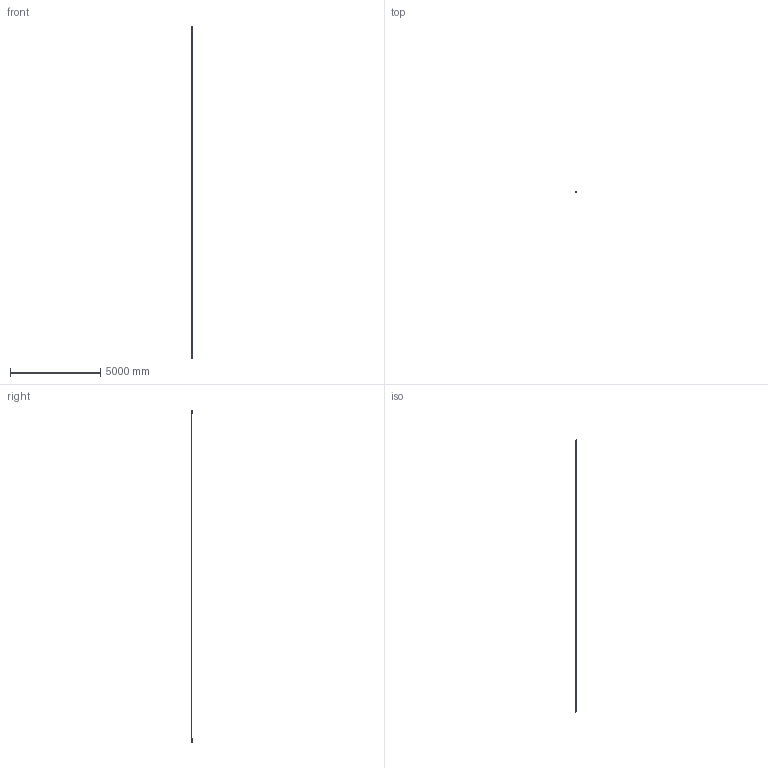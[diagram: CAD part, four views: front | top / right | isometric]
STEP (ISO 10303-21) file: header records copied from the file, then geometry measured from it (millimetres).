
FILE_DESCRIPTION(/* description */ (''),/* implementation_level */ '2;1');
FILE_NAME(/* name */ 'FLASH 18.stp',/* time_stamp */ '2023-02-27T16:46:52+01:00',/* author */ ('n.bisotti'),/* organization */ (''),/* preprocessor_version */ 'ST-DEVELOPER v19.2',/* originating_system */ 'Autodesk Inventor 2023',/* authorisation */ '');
FILE_SCHEMA (('AUTOMOTIVE_DESIGN { 1 0 10303 214 3 1 1 }'));
Length unit declared in the file: millimetre
Products named in the file (1): Parte14
Bounding box: 90 x 52.5 x 18375 mm (x, y, z)
Volume: 352085.1 mm3; surface area: 578321.5 mm2
Topology: 20 solids, 20 shells, 560 faces, 1339 edges, 816 vertices
Faces by surface type: plane 369, cylinder 161, cone 30
Full cylindrical faces by diameter (mm): 2.459 x1, 3.242 x12, 6.647 x2, 8 x4, 15 x2
Entity records: 16503 total; most frequent: CARTESIAN_POINT 2778, DIRECTION 2772, ORIENTED_EDGE 2638, EDGE_CURVE 1319, LINE 960, VECTOR 960, AXIS2_PLACEMENT_3D 906, VERTEX_POINT 815
